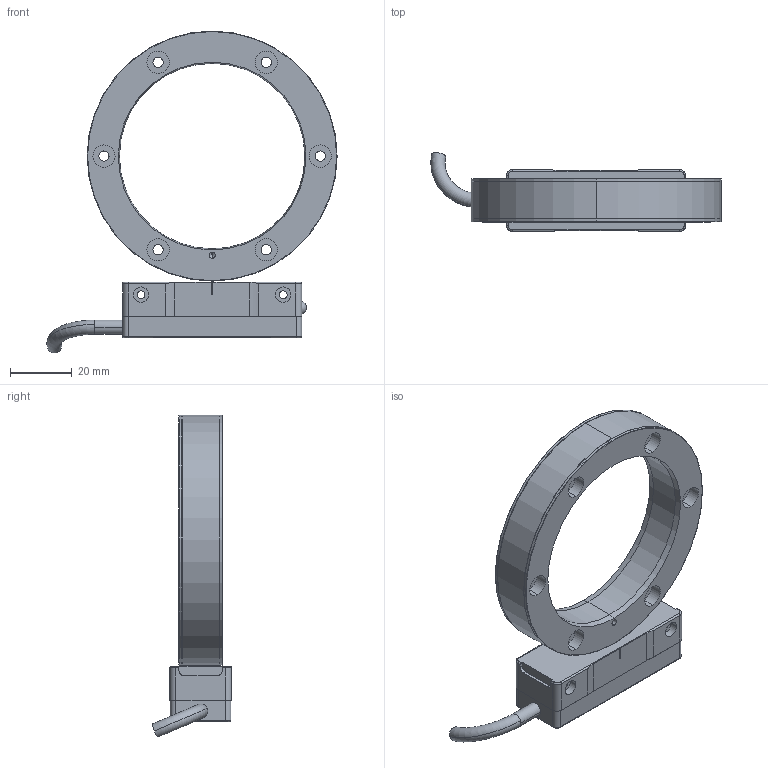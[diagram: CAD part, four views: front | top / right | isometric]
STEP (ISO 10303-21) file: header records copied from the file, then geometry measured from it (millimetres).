
FILE_DESCRIPTION (( 'STEP AP214' ), '1' );
FILE_NAME ('DHRx_SAR081_exposed.STEP', '2024-02-02T13:44:34', ( '' ), ( '' ), 'SwSTEP 2.0', 'SolidWorks 2022', '' );
FILE_SCHEMA (( 'AUTOMOTIVE_DESIGN' ));
Length unit declared in the file: millimetre
Products named in the file (1): DHRx_SAR081_exposed
Bounding box: 93.94 x 25.55 x 104.15 mm (x, y, z)
Volume: 50393.4 mm3; surface area: 18375 mm2
Topology: 2 solids, 2 shells, 2146 faces, 5822 edges, 3841 vertices
Faces by surface type: plane 1733, bspline 186, cylinder 163, cone 36, torus 26, sphere 2
Entity records: 97827 total; most frequent: CARTESIAN_POINT 20932, ORIENTED_EDGE 11614, DIRECTION 9808, EDGE_CURVE 5807, LINE 4976, VECTOR 4976, VERTEX_POINT 3840, AXIS2_PLACEMENT_3D 2416
